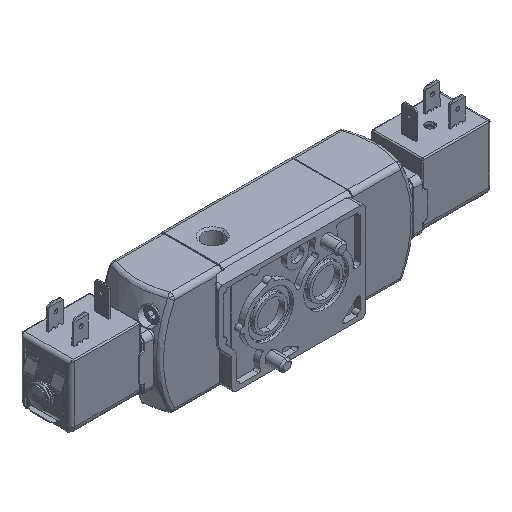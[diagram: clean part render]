
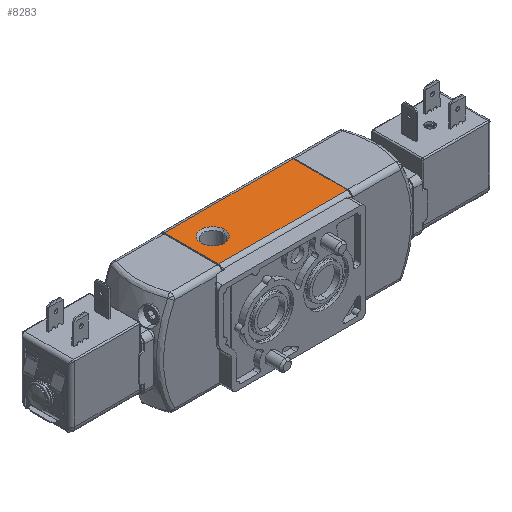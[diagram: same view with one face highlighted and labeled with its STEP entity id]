
A CAD part, isometric view. The second image highlights one B-rep face of the part: STEP entity #8283.
In plain terms, the highlighted planar face has unit normal (0, 0, 1).
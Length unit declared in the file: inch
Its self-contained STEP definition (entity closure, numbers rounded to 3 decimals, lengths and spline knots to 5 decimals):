
#66 = CARTESIAN_POINT ( 'NONE',  ( 0., -0.4626, 0.88583 ) ) ;
#1143 = DIRECTION ( 'NONE',  ( 1., 0., 0. ) ) ;
#1273 = VERTEX_POINT ( 'NONE', #1971 ) ;
#1971 = CARTESIAN_POINT ( 'NONE',  ( -2.20472, 0.4626, 0.88583 ) ) ;
#2608 = AXIS2_PLACEMENT_3D ( 'NONE', #14905, #25216, #35117 ) ;
#2730 = VERTEX_POINT ( 'NONE', #21309 ) ;
#3881 = EDGE_CURVE ( 'NONE', #37922, #19735, #15238, .T. ) ;
#4262 = EDGE_CURVE ( 'NONE', #2730, #20014, #28044, .T. ) ;
#4430 = CARTESIAN_POINT ( 'NONE',  ( 0., 0.4626, 0.88583 ) ) ;
#5645 = EDGE_CURVE ( 'NONE', #19735, #37922, #14311, .T. ) ;
#6051 = EDGE_CURVE ( 'NONE', #1273, #20014, #11242, .T. ) ;
#6911 = DIRECTION ( 'NONE',  ( 0., 0., -1. ) ) ;
#8283 = ADVANCED_FACE ( 'NONE', ( #23027, #9156 ), #12682, .T. ) ;
#9156 = FACE_OUTER_BOUND ( 'NONE', #15076, .T. ) ;
#9247 = CARTESIAN_POINT ( 'NONE',  ( -2.20472, 0., 0.88583 ) ) ;
#9564 = VECTOR ( 'NONE', #24955, 39.37008 ) ;
#11242 = LINE ( 'NONE', #4430, #16219 ) ;
#12682 = PLANE ( 'NONE',  #35549 ) ;
#14311 = CIRCLE ( 'NONE', #40948, 0.20079 ) ;
#14905 = CARTESIAN_POINT ( 'NONE',  ( -1.84252, 0., 0.88583 ) ) ;
#15076 = EDGE_LOOP ( 'NONE', ( #33263, #18418, #22162, #27187 ) ) ;
#15238 = CIRCLE ( 'NONE', #2608, 0.20079 ) ;
#16219 = VECTOR ( 'NONE', #1143, 39.37008 ) ;
#16441 = EDGE_CURVE ( 'NONE', #31119, #2730, #30166, .T. ) ;
#17477 = CARTESIAN_POINT ( 'NONE',  ( -1.84252, 0., 0.88583 ) ) ;
#18418 = ORIENTED_EDGE ( 'NONE', *, *, #4262, .T. ) ;
#19735 = VERTEX_POINT ( 'NONE', #34717 ) ;
#20014 = VERTEX_POINT ( 'NONE', #24145 ) ;
#20266 = CARTESIAN_POINT ( 'NONE',  ( -1.64173, 0., 0.88583 ) ) ;
#20344 = DIRECTION ( 'NONE',  ( 1., 0., 0. ) ) ;
#20362 = VECTOR ( 'NONE', #29960, 39.37008 ) ;
#21309 = CARTESIAN_POINT ( 'NONE',  ( 0., -0.4626, 0.88583 ) ) ;
#22162 = ORIENTED_EDGE ( 'NONE', *, *, #6051, .F. ) ;
#23027 = FACE_BOUND ( 'NONE', #30525, .T. ) ;
#24145 = CARTESIAN_POINT ( 'NONE',  ( 0., 0.4626, 0.88583 ) ) ;
#24955 = DIRECTION ( 'NONE',  ( 0., 1., 0. ) ) ;
#25216 = DIRECTION ( 'NONE',  ( 0., 0., -1. ) ) ;
#27187 = ORIENTED_EDGE ( 'NONE', *, *, #30792, .F. ) ;
#28044 = LINE ( 'NONE', #35268, #9564 ) ;
#28556 = CARTESIAN_POINT ( 'NONE',  ( -2.20472, -0.4626, 0.88583 ) ) ;
#29960 = DIRECTION ( 'NONE',  ( 1., 0., 0. ) ) ;
#30166 = LINE ( 'NONE', #66, #20362 ) ;
#30525 = EDGE_LOOP ( 'NONE', ( #35233, #33389 ) ) ;
#30792 = EDGE_CURVE ( 'NONE', #31119, #1273, #39776, .T. ) ;
#31119 = VERTEX_POINT ( 'NONE', #28556 ) ;
#33263 = ORIENTED_EDGE ( 'NONE', *, *, #16441, .T. ) ;
#33384 = VECTOR ( 'NONE', #42627, 39.37008 ) ;
#33389 = ORIENTED_EDGE ( 'NONE', *, *, #5645, .T. ) ;
#34717 = CARTESIAN_POINT ( 'NONE',  ( -2.04331, 0., 0.88583 ) ) ;
#35117 = DIRECTION ( 'NONE',  ( 1., 0., 0. ) ) ;
#35233 = ORIENTED_EDGE ( 'NONE', *, *, #3881, .T. ) ;
#35268 = CARTESIAN_POINT ( 'NONE',  ( 0., 0., 0.88583 ) ) ;
#35537 = DIRECTION ( 'NONE',  ( 0., 0., 1. ) ) ;
#35549 = AXIS2_PLACEMENT_3D ( 'NONE', #39676, #35537, #42536 ) ;
#37922 = VERTEX_POINT ( 'NONE', #20266 ) ;
#39676 = CARTESIAN_POINT ( 'NONE',  ( 0., -0.54134, 0.88583 ) ) ;
#39776 = LINE ( 'NONE', #9247, #33384 ) ;
#40948 = AXIS2_PLACEMENT_3D ( 'NONE', #17477, #6911, #20344 ) ;
#42536 = DIRECTION ( 'NONE',  ( 1., 0., 0. ) ) ;
#42627 = DIRECTION ( 'NONE',  ( 0., 1., 0. ) ) ;
